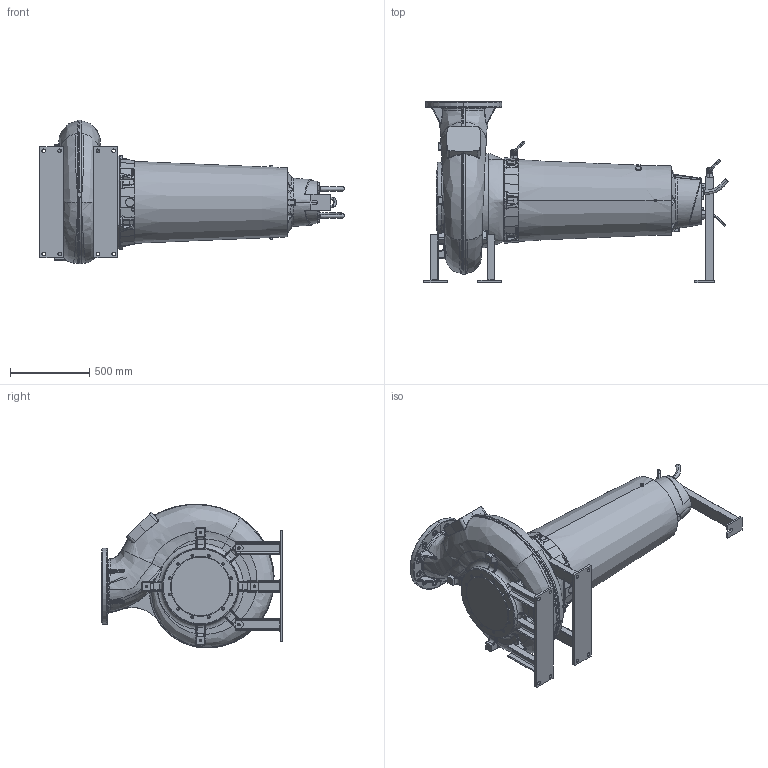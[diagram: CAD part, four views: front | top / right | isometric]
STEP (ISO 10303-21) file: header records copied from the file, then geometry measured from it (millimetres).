
FILE_DESCRIPTION (( 'STEP AP214' ), '1' );
FILE_NAME ('PE5_XFP300M-CH2_DRY HA_B_NG2.STEP', '2017-03-09T13:27:03', ( '' ), ( '' ), 'SwSTEP 2.0', 'SolidWorks 2017', '' );
FILE_SCHEMA (( 'AUTOMOTIVE_DESIGN' ));
Length unit declared in the file: millimetre
Products named in the file (1): PE5_XFP300M-CH2_DRY HA_B_NG2
Bounding box: 1919.08 x 1142.42 x 906.33 mm (x, y, z)
Volume: 420219139.1 mm3; surface area: 5698560.7 mm2
Topology: 6 solids, 24 shells, 1974 faces, 4871 edges, 2906 vertices
Faces by surface type: bspline 670, cylinder 505, plane 400, cone 196, torus 180, sphere 23
Entity records: 138069 total; most frequent: CARTESIAN_POINT 75637, ORIENTED_EDGE 9508, DIRECTION 7039, EDGE_CURVE 4754, VERTEX_POINT 2902, AXIS2_PLACEMENT_3D 2867, EDGE_LOOP 2120, UNCERTAINTY_MEASURE_WITH_UNIT 1982
